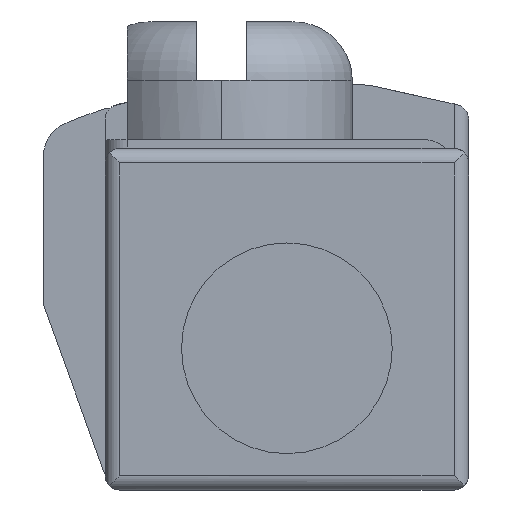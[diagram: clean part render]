
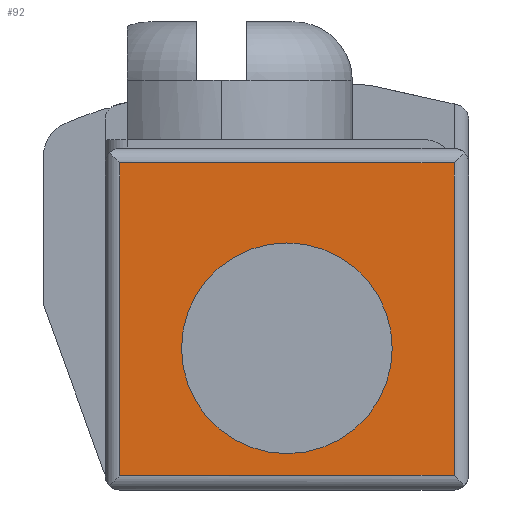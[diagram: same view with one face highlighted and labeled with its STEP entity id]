
A CAD part, left-side view. The second image highlights one B-rep face of the part: STEP entity #92.
In plain terms, the highlighted planar face has unit normal (-1, 0, 0).
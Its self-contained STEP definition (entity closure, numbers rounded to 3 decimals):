
#92 = ADVANCED_FACE( '', ( #257, #258 ), #259, .F. );
#257 = FACE_OUTER_BOUND( '', #596, .T. );
#258 = FACE_BOUND( '', #597, .T. );
#259 = PLANE( '', #598 );
#596 = EDGE_LOOP( '', ( #1078, #1079, #1080, #1081 ) );
#597 = EDGE_LOOP( '', ( #1082, #1083 ) );
#598 = AXIS2_PLACEMENT_3D( '', #1084, #1085, #1086 );
#1078 = ORIENTED_EDGE( '', *, *, #2400, .F. );
#1079 = ORIENTED_EDGE( '', *, *, #2407, .T. );
#1080 = ORIENTED_EDGE( '', *, *, #2408, .T. );
#1081 = ORIENTED_EDGE( '', *, *, #2409, .F. );
#1082 = ORIENTED_EDGE( '', *, *, #2410, .T. );
#1083 = ORIENTED_EDGE( '', *, *, #2346, .T. );
#1084 = CARTESIAN_POINT( '', ( 0., 0., 0. ) );
#1085 = DIRECTION( '', ( 1., 0., 0. ) );
#1086 = DIRECTION( '', ( 0., 0., -1. ) );
#2346 = EDGE_CURVE( '', #3124, #3121, #3125, .T. );
#2400 = EDGE_CURVE( '', #3221, #3213, #3223, .T. );
#2407 = EDGE_CURVE( '', #3221, #3236, #3237, .T. );
#2408 = EDGE_CURVE( '', #3236, #3238, #3239, .T. );
#2409 = EDGE_CURVE( '', #3213, #3238, #3240, .T. );
#2410 = EDGE_CURVE( '', #3121, #3124, #3241, .T. );
#3121 = VERTEX_POINT( '', #3940 );
#3124 = VERTEX_POINT( '', #3944 );
#3125 = CIRCLE( '', #3945, 1.45 );
#3213 = VERTEX_POINT( '', #4067 );
#3221 = VERTEX_POINT( '', #4076 );
#3223 = LINE( '', #4078, #4079 );
#3236 = VERTEX_POINT( '', #4094 );
#3237 = LINE( '', #4095, #4096 );
#3238 = VERTEX_POINT( '', #4097 );
#3239 = LINE( '', #4098, #4099 );
#3240 = LINE( '', #4100, #4101 );
#3241 = CIRCLE( '', #4102, 1.45 );
#3940 = CARTESIAN_POINT( '', ( 0., 1.45, 0. ) );
#3944 = CARTESIAN_POINT( '', ( 0., -1.45, 0. ) );
#3945 = AXIS2_PLACEMENT_3D( '', #5270, #5271, #5272 );
#4067 = CARTESIAN_POINT( '', ( 0., 2.3, -1.75 ) );
#4076 = CARTESIAN_POINT( '', ( 0., -2.3, -1.75 ) );
#4078 = CARTESIAN_POINT( '', ( 0., 0., -1.75 ) );
#4079 = VECTOR( '', #5362, 1. );
#4094 = CARTESIAN_POINT( '', ( 0., -2.3, 2.55 ) );
#4095 = CARTESIAN_POINT( '', ( 0., -2.3, 0.3 ) );
#4096 = VECTOR( '', #5377, 1. );
#4097 = CARTESIAN_POINT( '', ( 0., 2.3, 2.55 ) );
#4098 = CARTESIAN_POINT( '', ( 0., 0., 2.55 ) );
#4099 = VECTOR( '', #5378, 1. );
#4100 = CARTESIAN_POINT( '', ( 0., 2.3, 0.3 ) );
#4101 = VECTOR( '', #5379, 1. );
#4102 = AXIS2_PLACEMENT_3D( '', #5380, #5381, #5382 );
#5270 = CARTESIAN_POINT( '', ( 0., 0., 0. ) );
#5271 = DIRECTION( '', ( 1., 0., 0. ) );
#5272 = DIRECTION( '', ( 0., 1., 0. ) );
#5362 = DIRECTION( '', ( 0., 1., 0. ) );
#5377 = DIRECTION( '', ( 0., 0., 1. ) );
#5378 = DIRECTION( '', ( 0., 1., 0. ) );
#5379 = DIRECTION( '', ( 0., 0., 1. ) );
#5380 = CARTESIAN_POINT( '', ( 0., 0., 0. ) );
#5381 = DIRECTION( '', ( 1., 0., 0. ) );
#5382 = DIRECTION( '', ( 0., 1., 0. ) );
